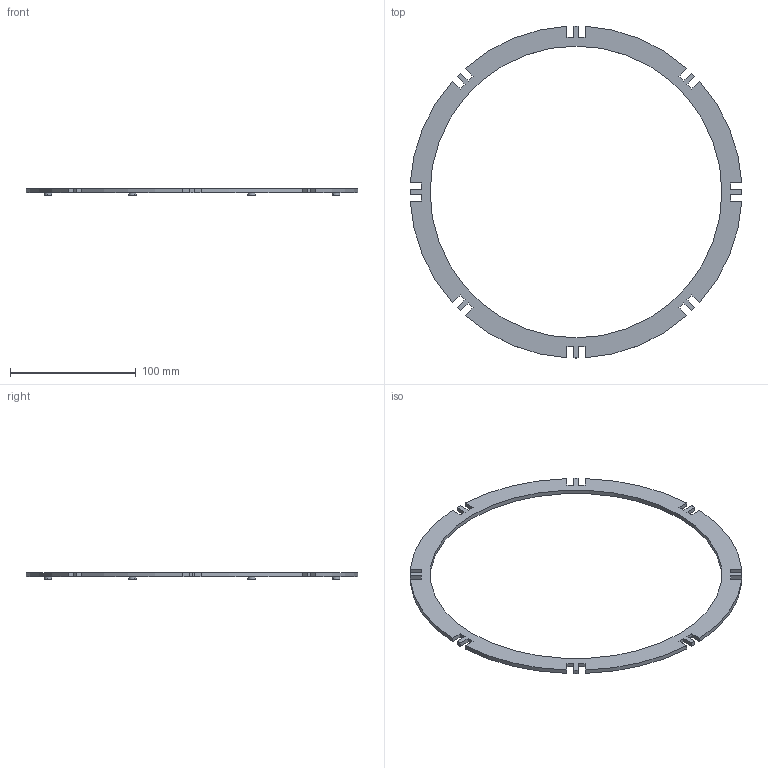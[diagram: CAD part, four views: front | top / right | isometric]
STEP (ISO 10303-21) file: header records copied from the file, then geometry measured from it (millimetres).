
FILE_DESCRIPTION(('CATIA V5 STEP Exchange'),'2;1');
FILE_NAME('D:\交接\张长江\21-Benz H6\光华荣昌转盘数据\H6 转盘\转盘用整椅数据 A9609109920\sample\H6 转盘夏季测试样件方案_20240617\样件数据\塑料件\SHT0017294-4 转盘垫片.stp','2024-06-19T03:41:29+00:00',('none'),('none'),'CATIA Version 5 Release 20 GA (IN-10)','CATIA V5 STEP AP203 Edition 2','none');
FILE_SCHEMA(('AP203_CONFIGURATION_CONTROLLED_3D_DESIGN_OF_MECHANICAL_PARTS_AND_ASSEMBLIES_MIM_LF { 1 0 10303 403 2 1 2}'));
Length unit declared in the file: millimetre
Products named in the file (1): SHT0017294-4
Bounding box: 264 x 264 x 5.3 mm (x, y, z)
Volume: 39048.1 mm3; surface area: 29774.3 mm2
Topology: 1 solids, 1 shells, 94 faces, 252 edges, 168 vertices
Faces by surface type: plane 58, cylinder 36
Entity records: 2711 total; most frequent: ORIENTED_EDGE 504, CARTESIAN_POINT 476, DIRECTION 362, EDGE_CURVE 252, VECTOR 180, LINE 180, VERTEX_POINT 168, AXIS2_PLACEMENT_3D 128
